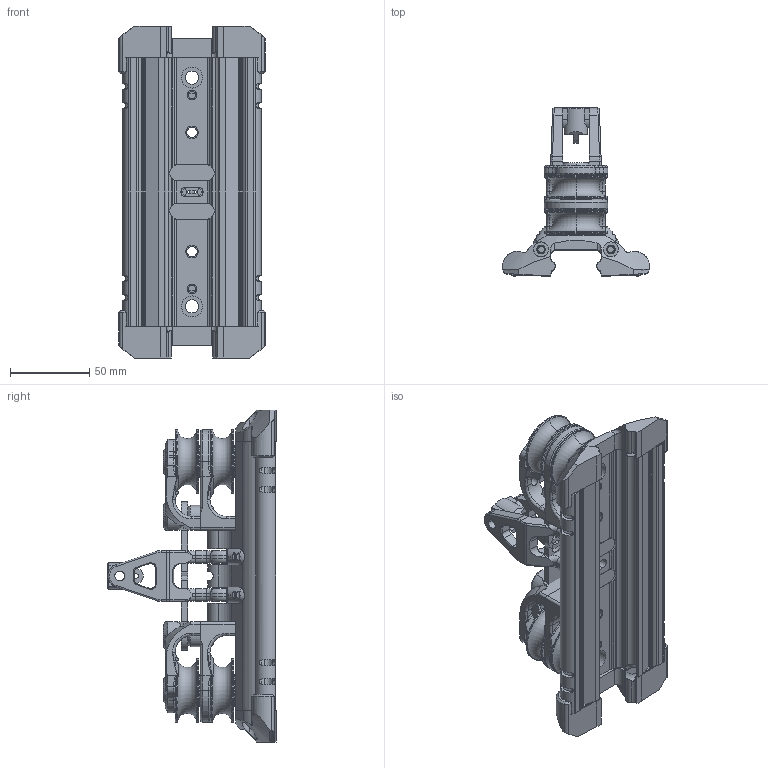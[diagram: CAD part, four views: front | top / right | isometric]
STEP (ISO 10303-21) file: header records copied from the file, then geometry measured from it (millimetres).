
FILE_DESCRIPTION((''),'2;1');
FILE_NAME('29432412_ASM','2007-04-10T',('NBelton'),(''),'PRO/ENGINEER BY PARAMETRIC TECHNOLOGY CORPORATION, 2005450','PRO/ENGINEER BY PARAMETRIC TECHNOLOGY CORPORATION, 2005450','');
FILE_SCHEMA(('CONFIG_CONTROL_DESIGN'));
Length unit declared in the file: millimetre
Products named in the file (15): 25002974; 25002975; 25003494; 25003987; 28003229_ASM; 25000052; 28003241_ASM; 25003559; 25003557; 25003450; 25003558; 25003585; 28003558_ASM; 25000053; 29432412_ASM
Assembly tree (19 placements, depth 3):
  29432412_ASM
    28003229_ASM
      25002974
      25002975  x2
      25003494  x2
      25003987  x2
    28003241_ASM
      25000052
    28003558_ASM  x2
      25003559
      25003557
      25003450
      25003558
      25003585
    25000053
Bounding box: 92.5 x 105.8 x 209 mm (x, y, z)
Volume: 317988.8 mm3; surface area: 162900.5 mm2
Topology: 21 solids, 29 shells, 1419 faces, 3640 edges, 2282 vertices
Faces by surface type: cylinder 633, plane 384, torus 150, bspline 134, cone 110, sphere 8
Entity records: 33853 total; most frequent: CARTESIAN_POINT 12332, ORIENTED_EDGE 4510, DIRECTION 4451, EDGE_CURVE 2271, AXIS2_PLACEMENT_3D 1747, VERTEX_POINT 1434, VECTOR 957, LINE 957
